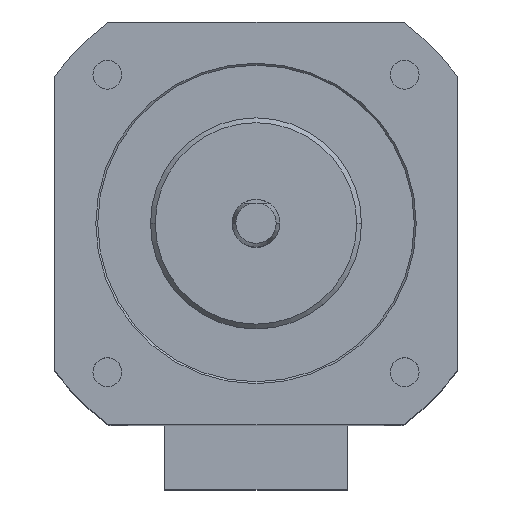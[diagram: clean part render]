
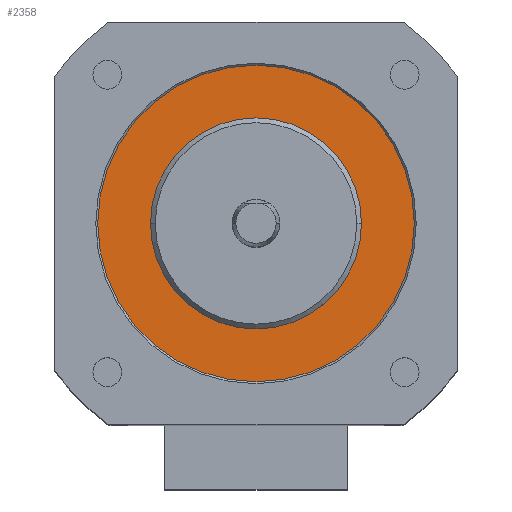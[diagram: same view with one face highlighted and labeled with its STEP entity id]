
A CAD part, top view. The second image highlights one B-rep face of the part: STEP entity #2358.
In plain terms, the highlighted planar face has unit normal (0, 0, 1).
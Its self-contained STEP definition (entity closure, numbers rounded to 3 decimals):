
#123 = AXIS2_PLACEMENT_3D ( 'NONE', #2273, #347, #502 ) ;
#163 = DIRECTION ( 'NONE',  ( 0., 0., 1. ) ) ;
#206 = DIRECTION ( 'NONE',  ( 0., 0., 1. ) ) ;
#300 = CIRCLE ( 'NONE', #1798, 11. ) ;
#347 = DIRECTION ( 'NONE',  ( 0., 0., 1. ) ) ;
#370 = DIRECTION ( 'NONE',  ( 1., 0., 0. ) ) ;
#473 = CIRCLE ( 'NONE', #2431, 16.5 ) ;
#487 = AXIS2_PLACEMENT_3D ( 'NONE', #979, #2515, #2541 ) ;
#502 = DIRECTION ( 'NONE',  ( 1., 0., 0. ) ) ;
#583 = CARTESIAN_POINT ( 'NONE',  ( 0., 0., -2.2 ) ) ;
#622 = VERTEX_POINT ( 'NONE', #2476 ) ;
#659 = EDGE_CURVE ( 'NONE', #2061, #932, #300, .T. ) ;
#904 = EDGE_LOOP ( 'NONE', ( #2109, #1970 ) ) ;
#924 = ORIENTED_EDGE ( 'NONE', *, *, #659, .F. ) ;
#932 = VERTEX_POINT ( 'NONE', #1436 ) ;
#951 = DIRECTION ( 'NONE',  ( 1., 0., 0. ) ) ;
#979 = CARTESIAN_POINT ( 'NONE',  ( 0., 0., -2.2 ) ) ;
#1164 = CARTESIAN_POINT ( 'NONE',  ( 0., 0., -2.2 ) ) ;
#1265 = CARTESIAN_POINT ( 'NONE',  ( -16.5, 0., -2.2 ) ) ;
#1436 = CARTESIAN_POINT ( 'NONE',  ( -11., 0., -2.2 ) ) ;
#1467 = DIRECTION ( 'NONE',  ( 0., 0., 1. ) ) ;
#1570 = EDGE_CURVE ( 'NONE', #1872, #622, #473, .T. ) ;
#1601 = EDGE_CURVE ( 'NONE', #932, #2061, #1916, .T. ) ;
#1645 = CIRCLE ( 'NONE', #2000, 16.5 ) ;
#1681 = FACE_OUTER_BOUND ( 'NONE', #904, .T. ) ;
#1798 = AXIS2_PLACEMENT_3D ( 'NONE', #583, #163, #370 ) ;
#1872 = VERTEX_POINT ( 'NONE', #1265 ) ;
#1908 = CARTESIAN_POINT ( 'NONE',  ( 11., 0., -2.2 ) ) ;
#1916 = CIRCLE ( 'NONE', #487, 11. ) ;
#1944 = EDGE_CURVE ( 'NONE', #622, #1872, #1645, .T. ) ;
#1970 = ORIENTED_EDGE ( 'NONE', *, *, #1570, .T. ) ;
#2000 = AXIS2_PLACEMENT_3D ( 'NONE', #2244, #1467, #2062 ) ;
#2051 = EDGE_LOOP ( 'NONE', ( #924, #2058 ) ) ;
#2058 = ORIENTED_EDGE ( 'NONE', *, *, #1601, .F. ) ;
#2061 = VERTEX_POINT ( 'NONE', #1908 ) ;
#2062 = DIRECTION ( 'NONE',  ( 1., 0., 0. ) ) ;
#2109 = ORIENTED_EDGE ( 'NONE', *, *, #1944, .T. ) ;
#2227 = FACE_BOUND ( 'NONE', #2051, .T. ) ;
#2244 = CARTESIAN_POINT ( 'NONE',  ( 0., 0., -2.2 ) ) ;
#2273 = CARTESIAN_POINT ( 'NONE',  ( 0., 0., -2.2 ) ) ;
#2358 = ADVANCED_FACE ( 'NONE', ( #2227, #1681 ), #2494, .T. ) ;
#2431 = AXIS2_PLACEMENT_3D ( 'NONE', #1164, #206, #951 ) ;
#2476 = CARTESIAN_POINT ( 'NONE',  ( 16.5, 0., -2.2 ) ) ;
#2494 = PLANE ( 'NONE',  #123 ) ;
#2515 = DIRECTION ( 'NONE',  ( 0., 0., 1. ) ) ;
#2541 = DIRECTION ( 'NONE',  ( 1., 0., 0. ) ) ;
